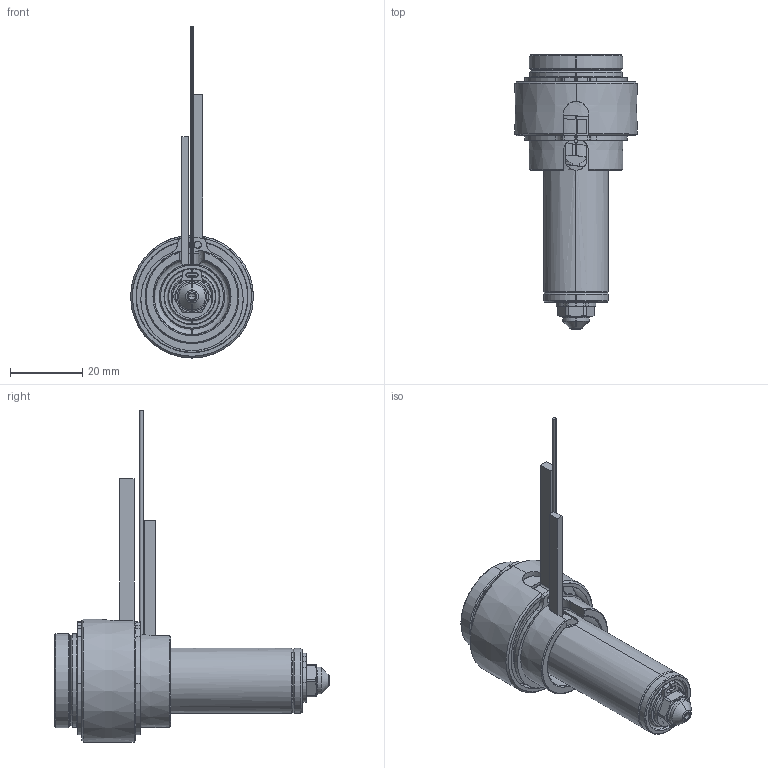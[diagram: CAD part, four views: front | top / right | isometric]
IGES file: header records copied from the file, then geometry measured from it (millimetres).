
Start section: SolidWorks IGES file using analytic representation for surfaces
Global section: file name: C:\Documents and Settings\ws-20\Desktop\TEM\UGER2501-S-A-0 [Øb-1.90 ØC-5.0].IGS; native system: SolidWorks 2012; preprocessor: SolidWorks 2012; author: ws-20; date: 120405.104952; units: millimetre
Bounding box: 34 x 75.9 x 91.9 mm (x, y, z)
Surface area: 21373.7 mm2 (no closed solid volume)
Topology: 0 solids, 0 shells, 208 faces, 2789 edges, 2787 vertices
Faces by surface type: revolution 133, bspline 75
